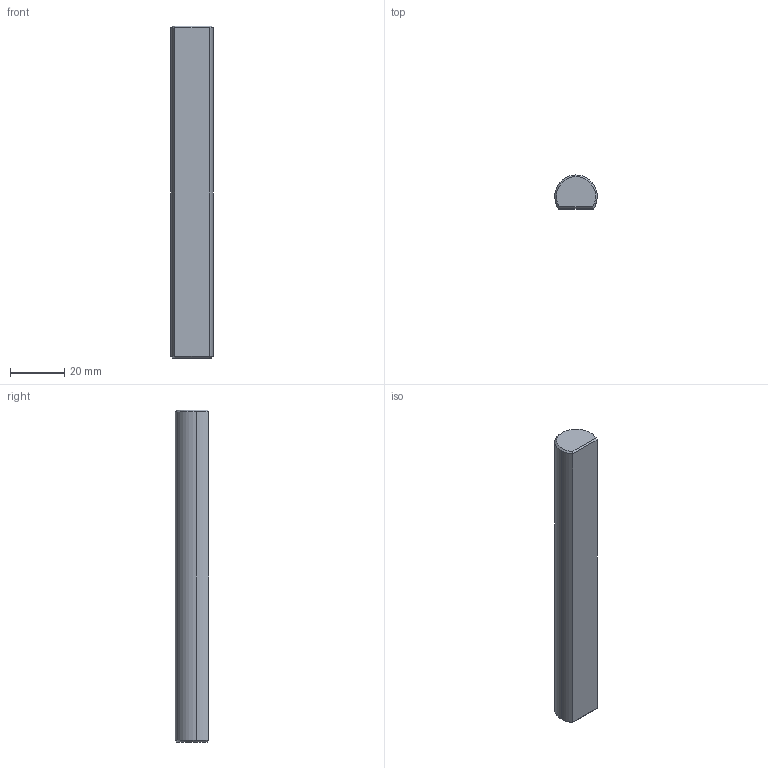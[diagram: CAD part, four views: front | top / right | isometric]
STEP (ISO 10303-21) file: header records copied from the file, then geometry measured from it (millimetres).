
FILE_DESCRIPTION (( 'STEP AP214' ), '1' );
FILE_NAME ('Ferris Wheel - Axle.STEP', '2022-06-13T02:43:27', ( '' ), ( '' ), 'SwSTEP 2.0', 'SolidWorks 2020', '' );
FILE_SCHEMA (( 'AUTOMOTIVE_DESIGN' ));
Length unit declared in the file: millimetre
Products named in the file (1): Ferris Wheel - Axle
Bounding box: 15.6 x 12.3 x 122 mm (x, y, z)
Volume: 19705 mm3; surface area: 6003.9 mm2
Topology: 1 solids, 1 shells, 14 faces, 28 edges, 16 vertices
Faces by surface type: cone 6, plane 5, cylinder 3
Entity records: 398 total; most frequent: CARTESIAN_POINT 71, DIRECTION 66, ORIENTED_EDGE 56, EDGE_CURVE 28, AXIS2_PLACEMENT_3D 27, VERTEX_POINT 16, EDGE_LOOP 14, FACE_OUTER_BOUND 14
